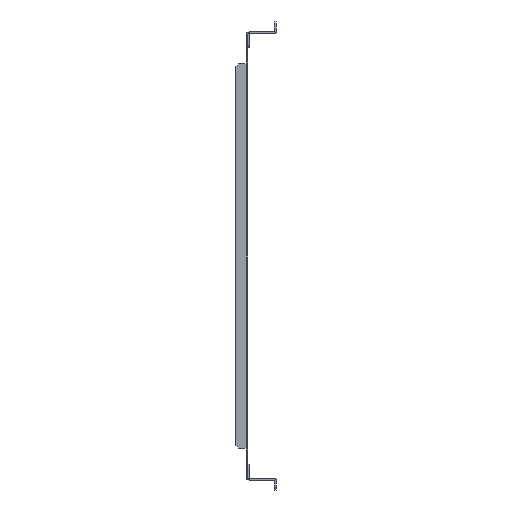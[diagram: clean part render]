
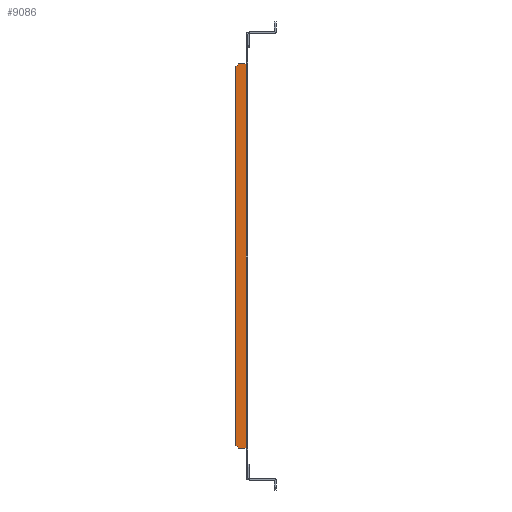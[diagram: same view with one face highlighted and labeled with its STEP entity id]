
A CAD part, left-side view. The second image highlights one B-rep face of the part: STEP entity #9086.
In plain terms, the highlighted planar face has unit normal (-1, 0, 0).
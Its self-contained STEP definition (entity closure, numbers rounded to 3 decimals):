
#7406=CARTESIAN_POINT(' ',(-299.5,9.,214.5));
#7407=VERTEX_POINT(' ',#7406);
#7421=CARTESIAN_POINT(' ',(-299.5,9.,214.5));
#7426=DIRECTION(' ',(0.,-1.,0.));
#7431=VECTOR(' ',#7426,1.);
#7436=LINE('',#7421,#7431);
#7441=CARTESIAN_POINT(' ',(-299.5,0.6,214.5));
#7442=VERTEX_POINT(' ',#7441);
#7446=EDGE_CURVE(' ',#7407,#7442,#7436,.T.);
#7581=CARTESIAN_POINT(' ',(-299.5,0.6,214.5));
#7586=DIRECTION(' ',(0.,0.,-1.));
#7591=VECTOR(' ',#7586,1.);
#7596=LINE('',#7581,#7591);
#7601=CARTESIAN_POINT(' ',(-299.5,0.6,-214.5));
#7602=VERTEX_POINT(' ',#7601);
#7606=EDGE_CURVE(' ',#7442,#7602,#7596,.T.);
#7701=CARTESIAN_POINT(' ',(-299.5,9.,-214.5));
#7706=DIRECTION(' ',(0.,-1.,0.));
#7711=VECTOR(' ',#7706,1.);
#7716=LINE('',#7701,#7711);
#7721=CARTESIAN_POINT(' ',(-299.5,9.,-214.5));
#7722=VERTEX_POINT(' ',#7721);
#7726=EDGE_CURVE(' ',#7722,#7602,#7716,.T.);
#8876=CARTESIAN_POINT(' ',(-299.5,9.,214.5));
#8881=DIRECTION(' ',(0.,0.707,-0.707));
#8886=VECTOR(' ',#8881,1.);
#8891=LINE('',#8876,#8886);
#8896=CARTESIAN_POINT(' ',(-299.5,12.,211.5));
#8897=VERTEX_POINT(' ',#8896);
#8901=EDGE_CURVE(' ',#7407,#8897,#8891,.T.);
#8966=DIRECTION(' ',(-1.,-0.,0.));
#8971=CARTESIAN_POINT(' ',(-299.5,0.6,214.5));
#8976=DIRECTION(' ',(0.,1.,0.));
#8981=AXIS2_PLACEMENT_3D(' ',#8971,#8966,#8976);
#8986=PLANE('NONE',#8981);
#8991=CARTESIAN_POINT(' ',(-299.5,12.,211.5));
#8996=DIRECTION(' ',(0.,0.,-1.));
#9001=VECTOR(' ',#8996,1.);
#9006=LINE('',#8991,#9001);
#9011=CARTESIAN_POINT(' ',(-299.5,12.,-211.5));
#9012=VERTEX_POINT(' ',#9011);
#9016=EDGE_CURVE(' ',#8897,#9012,#9006,.T.);
#9021=ORIENTED_EDGE(' ',*,*,#9016,.T.);
#9026=CARTESIAN_POINT(' ',(-299.5,12.,-211.5));
#9031=DIRECTION(' ',(0.,-0.707,-0.707));
#9036=VECTOR(' ',#9031,1.);
#9041=LINE('',#9026,#9036);
#9046=EDGE_CURVE(' ',#9012,#7722,#9041,.T.);
#9051=ORIENTED_EDGE(' ',*,*,#9046,.T.);
#9056=ORIENTED_EDGE(' ',*,*,#7726,.T.);
#9061=ORIENTED_EDGE(' ',*,*,#7606,.F.);
#9066=ORIENTED_EDGE(' ',*,*,#7446,.F.);
#9071=ORIENTED_EDGE(' ',*,*,#8901,.T.);
#9076=EDGE_LOOP(' ',(#9021,#9051,#9056,#9061,#9066,#9071));
#9081=FACE_OUTER_BOUND(' ',#9076,.T.);
#9086=ADVANCED_FACE('NONE',(#9081),#8986,.T.);
